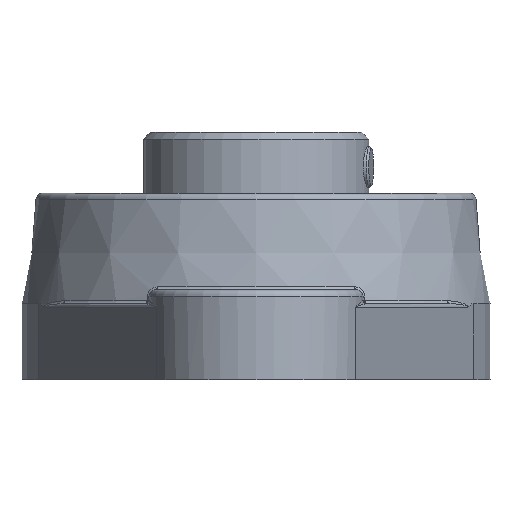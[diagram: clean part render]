
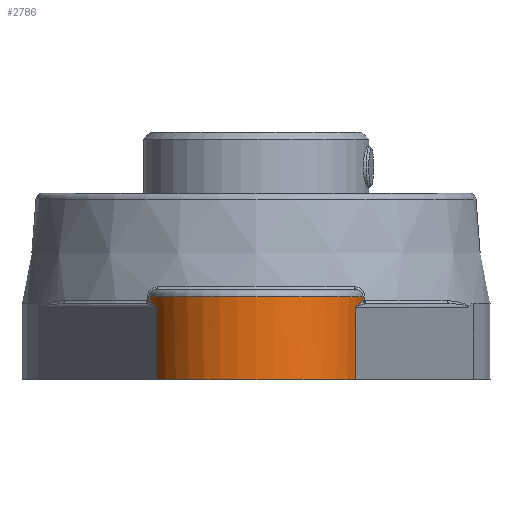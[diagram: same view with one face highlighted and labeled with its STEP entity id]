
A CAD part, left-side view. The second image highlights one B-rep face of the part: STEP entity #2786.
In plain terms, the highlighted cylindrical face has radius 15.5 mm (diameter 31 mm), a partial arc.
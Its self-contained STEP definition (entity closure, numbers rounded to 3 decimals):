
#220=B_SPLINE_CURVE_WITH_KNOTS('',3,(#4520,#4521,#4522,#4523,#4524,#4525,
#4526,#4527),.UNSPECIFIED.,.F.,.F.,(4,1,1,2,4),(0.,0.346,
0.461,0.577,0.578),.UNSPECIFIED.);
#237=B_SPLINE_CURVE_WITH_KNOTS('',3,(#5868,#5869,#5870,#5871,#5872,#5873,
#5874,#5875),.UNSPECIFIED.,.F.,.F.,(4,2,1,1,4),(-0.002,0.,
0.346,0.461,0.577),.UNSPECIFIED.);
#348=LINE('',#5892,#435);
#352=LINE('',#5908,#439);
#353=LINE('',#5912,#440);
#354=LINE('',#5915,#441);
#435=VECTOR('',#3610,10.);
#439=VECTOR('',#3630,10.);
#440=VECTOR('',#3635,10.);
#441=VECTOR('',#3638,10.);
#520=CYLINDRICAL_SURFACE('',#3147,15.5);
#582=FACE_OUTER_BOUND('',#745,.T.);
#745=EDGE_LOOP('',(#1969,#1970,#1971,#1972,#1973,#1974,#1975,#1976,#1977,
#1978));
#915=CIRCLE('',#3110,15.5);
#934=CIRCLE('',#3134,15.5);
#939=CIRCLE('',#3148,15.5);
#940=CIRCLE('',#3149,15.5);
#1160=VERTEX_POINT('',#4468);
#1162=VERTEX_POINT('',#4474);
#1164=VERTEX_POINT('',#4519);
#1184=VERTEX_POINT('',#5856);
#1186=VERTEX_POINT('',#5859);
#1187=VERTEX_POINT('',#5877);
#1189=VERTEX_POINT('',#5890);
#1193=VERTEX_POINT('',#5904);
#1194=VERTEX_POINT('',#5911);
#1195=VERTEX_POINT('',#5913);
#1453=EDGE_CURVE('',#1160,#1162,#915,.T.);
#1454=EDGE_CURVE('',#1162,#1164,#220,.T.);
#1487=EDGE_CURVE('',#1186,#1184,#237,.T.);
#1490=EDGE_CURVE('',#1184,#1187,#934,.T.);
#1496=EDGE_CURVE('',#1160,#1189,#348,.T.);
#1504=EDGE_CURVE('',#1187,#1193,#352,.T.);
#1505=EDGE_CURVE('',#1193,#1189,#939,.T.);
#1506=EDGE_CURVE('',#1194,#1186,#353,.T.);
#1507=EDGE_CURVE('',#1194,#1195,#940,.T.);
#1508=EDGE_CURVE('',#1195,#1164,#354,.T.);
#1969=ORIENTED_EDGE('',*,*,#1454,.F.);
#1970=ORIENTED_EDGE('',*,*,#1453,.F.);
#1971=ORIENTED_EDGE('',*,*,#1496,.T.);
#1972=ORIENTED_EDGE('',*,*,#1505,.F.);
#1973=ORIENTED_EDGE('',*,*,#1504,.F.);
#1974=ORIENTED_EDGE('',*,*,#1490,.F.);
#1975=ORIENTED_EDGE('',*,*,#1487,.F.);
#1976=ORIENTED_EDGE('',*,*,#1506,.F.);
#1977=ORIENTED_EDGE('',*,*,#1507,.T.);
#1978=ORIENTED_EDGE('',*,*,#1508,.T.);
#2786=ADVANCED_FACE('',(#582),#520,.T.);
#3110=AXIS2_PLACEMENT_3D('',#4478,#3547,#3548);
#3134=AXIS2_PLACEMENT_3D('',#5881,#3595,#3596);
#3147=AXIS2_PLACEMENT_3D('',#5909,#3631,#3632);
#3148=AXIS2_PLACEMENT_3D('',#5910,#3633,#3634);
#3149=AXIS2_PLACEMENT_3D('',#5914,#3636,#3637);
#3547=DIRECTION('center_axis',(0.,0.,-1.));
#3548=DIRECTION('ref_axis',(-0.064,-0.998,0.));
#3595=DIRECTION('center_axis',(0.,0.,-1.));
#3596=DIRECTION('ref_axis',(-0.064,0.998,0.));
#3610=DIRECTION('',(0.,0.,1.));
#3630=DIRECTION('',(0.,0.,1.));
#3631=DIRECTION('center_axis',(0.,0.,1.));
#3632=DIRECTION('ref_axis',(0.,1.,0.));
#3633=DIRECTION('center_axis',(0.,0.,1.));
#3634=DIRECTION('ref_axis',(-1.,0.,0.));
#3635=DIRECTION('',(0.,0.,1.));
#3636=DIRECTION('center_axis',(0.,0.,1.));
#3637=DIRECTION('ref_axis',(0.,1.,0.));
#3638=DIRECTION('',(0.,0.,1.));
#4468=CARTESIAN_POINT('',(-49.5,-15.5,11.5));
#4474=CARTESIAN_POINT('',(-49.928,-15.494,11.5));
#4478=CARTESIAN_POINT('Origin',(-49.5,0.,11.5));
#4519=CARTESIAN_POINT('',(-55.293,-14.377,10.5));
#4520=CARTESIAN_POINT('Ctrl Pts',(-49.928,-15.494,11.5));
#4521=CARTESIAN_POINT('Ctrl Pts',(-51.045,-15.463,11.5));
#4522=CARTESIAN_POINT('Ctrl Pts',(-52.516,-15.26,11.22));
#4523=CARTESIAN_POINT('Ctrl Pts',(-54.261,-14.764,10.787));
#4524=CARTESIAN_POINT('Ctrl Pts',(-54.943,-14.517,10.597));
#4525=CARTESIAN_POINT('Ctrl Pts',(-55.283,-14.381,10.503));
#4526=CARTESIAN_POINT('Ctrl Pts',(-55.288,-14.379,10.501));
#4527=CARTESIAN_POINT('Ctrl Pts',(-55.293,-14.377,10.5));
#5856=CARTESIAN_POINT('',(-49.928,15.494,11.5));
#5859=CARTESIAN_POINT('',(-55.293,14.377,10.5));
#5868=CARTESIAN_POINT('Ctrl Pts',(-55.293,14.377,10.5));
#5869=CARTESIAN_POINT('Ctrl Pts',(-55.288,14.379,10.501));
#5870=CARTESIAN_POINT('Ctrl Pts',(-55.283,14.381,10.503));
#5871=CARTESIAN_POINT('Ctrl Pts',(-54.273,14.787,10.783));
#5872=CARTESIAN_POINT('Ctrl Pts',(-52.871,15.187,11.162));
#5873=CARTESIAN_POINT('Ctrl Pts',(-51.044,15.436,11.448));
#5874=CARTESIAN_POINT('Ctrl Pts',(-50.3,15.484,11.5));
#5875=CARTESIAN_POINT('Ctrl Pts',(-49.928,15.494,11.5));
#5877=CARTESIAN_POINT('',(-49.5,15.5,11.5));
#5881=CARTESIAN_POINT('Origin',(-49.5,0.,11.5));
#5890=CARTESIAN_POINT('',(-49.5,-15.5,12.));
#5892=CARTESIAN_POINT('',(-49.5,-15.5,0.));
#5904=CARTESIAN_POINT('',(-49.5,15.5,12.));
#5908=CARTESIAN_POINT('',(-49.5,15.5,0.));
#5909=CARTESIAN_POINT('Origin',(-49.5,0.,0.));
#5910=CARTESIAN_POINT('Origin',(-49.5,0.,12.));
#5911=CARTESIAN_POINT('',(-55.293,14.377,0.));
#5912=CARTESIAN_POINT('',(-55.293,14.377,0.));
#5913=CARTESIAN_POINT('',(-55.293,-14.377,0.));
#5914=CARTESIAN_POINT('Origin',(-49.5,0.,0.));
#5915=CARTESIAN_POINT('',(-55.293,-14.377,0.));
